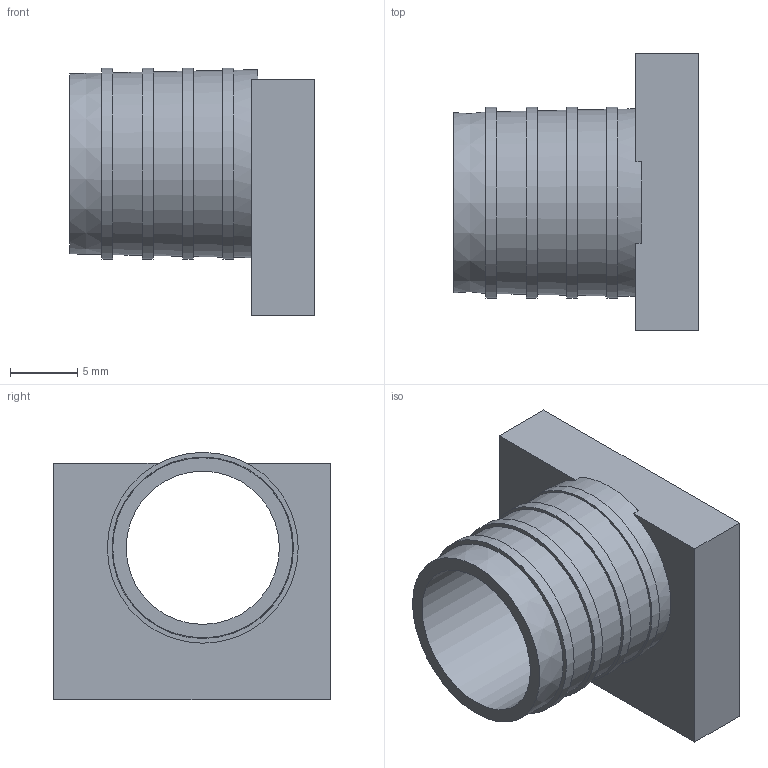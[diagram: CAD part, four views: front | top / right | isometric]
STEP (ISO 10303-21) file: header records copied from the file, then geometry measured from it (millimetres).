
FILE_DESCRIPTION(('FreeCAD Model'),'2;1');
FILE_NAME('Open CASCADE Shape Model','2026-10-24T11:59:21',('FreeCAD'),( 'FreeCAD'),'Open CASCADE STEP processor 7.8','FreeCAD','Unknown');
FILE_SCHEMA(('AUTOMOTIVE_DESIGN { 1 0 10303 214 1 1 1 1 }'));
Length unit declared in the file: millimetre
Products named in the file (1): Open CASCADE STEP translator 7.8 5
Bounding box: 18.2 x 20.6 x 18.4 mm (x, y, z)
Volume: 1869.1 mm3; surface area: 2196.1 mm2
Topology: 1 solids, 1 shells, 26 faces, 48 edges, 32 vertices
Faces by surface type: plane 16, cone 5, cylinder 5
Full cylindrical faces by diameter (mm): 11.4 x1, 14.2 x4
Entity records: 670 total; most frequent: DIRECTION 126, CARTESIAN_POINT 107, ORIENTED_EDGE 96, AXIS2_PLACEMENT_3D 51, EDGE_CURVE 48, FACE_BOUND 36, EDGE_LOOP 36, VERTEX_POINT 32
